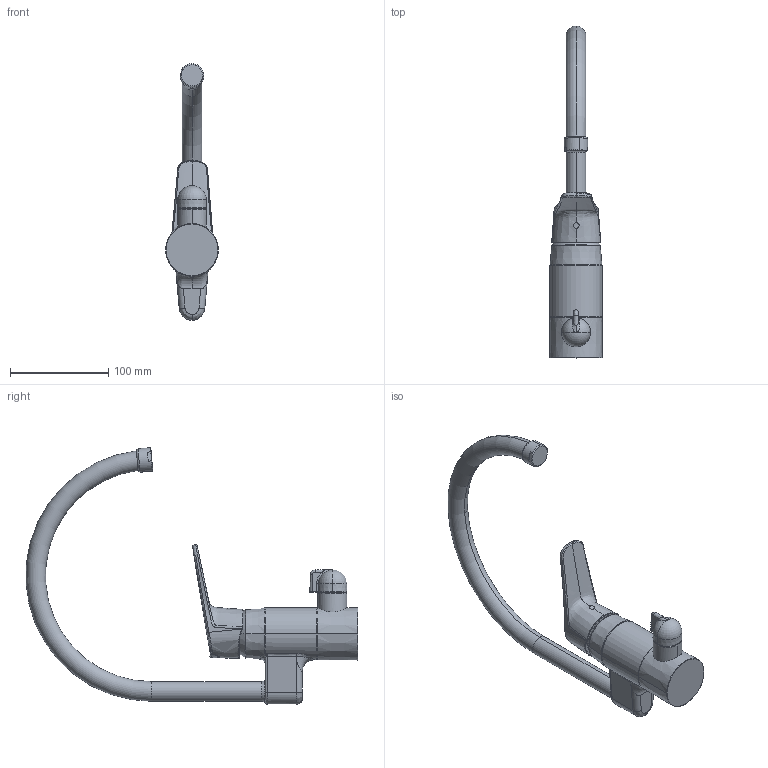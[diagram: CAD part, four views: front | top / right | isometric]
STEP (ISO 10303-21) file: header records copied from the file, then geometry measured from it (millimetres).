
FILE_DESCRIPTION (( 'STEP AP203' ), '1' );
FILE_NAME ('1839FG(2018).STEP', '2020-12-02T12:07:11', ( '' ), ( '' ), 'SwSTEP 2.0', 'SolidWorks 2016', '' );
FILE_SCHEMA (( 'CONFIG_CONTROL_DESIGN' ));
Length unit declared in the file: millimetre
Products named in the file (1): 1839FG(2018)
Bounding box: 53.72 x 337.96 x 261.35 mm (x, y, z)
Volume: 566257.4 mm3; surface area: 74595.5 mm2
Topology: 1 solids, 1 shells, 183 faces, 468 edges, 290 vertices
Faces by surface type: bspline 91, cylinder 33, torus 22, plane 21, cone 15, sphere 1
Entity records: 29235 total; most frequent: CARTESIAN_POINT 25589, ORIENTED_EDGE 924, DIRECTION 480, EDGE_CURVE 462, VERTEX_POINT 290, B_SPLINE_CURVE_WITH_KNOTS 268, AXIS2_PLACEMENT_3D 214, EDGE_LOOP 192
